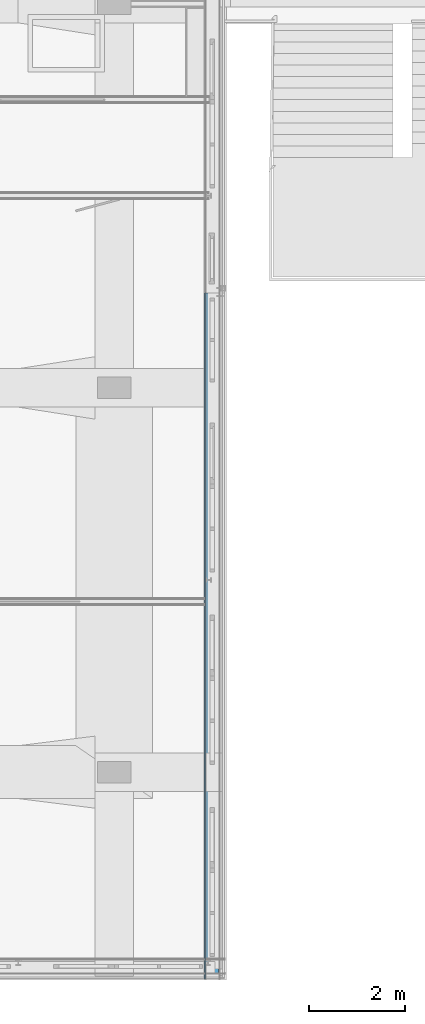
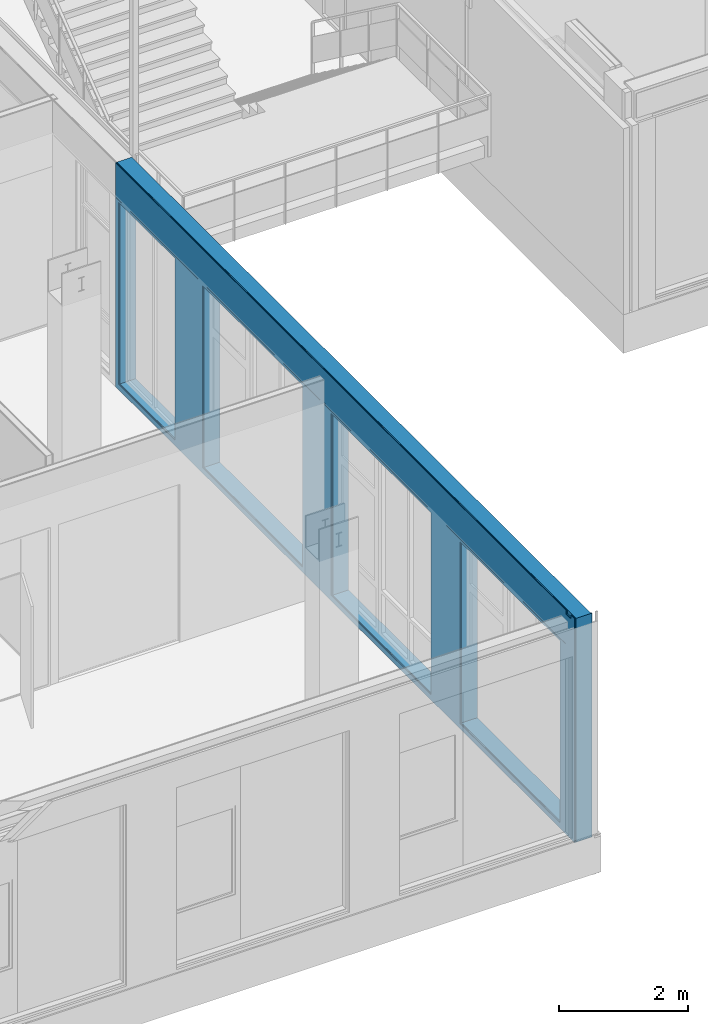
# One storey, part 38 of 94: 3 building element parts, 7 openings, 1 element without a shape of its own.
"""IFC2X3 building model written with IfcOpenShell, lengths in millimetres."""

from ifc_helpers import new_model, entity, si_unit, converted_unit, derived_unit, money_unit, direction, frame, origin_with_axes, place, context, subcontext, project, spatial, faceted_brep, material, type_object, element, aggregate, save


model = new_model("IFC2X3")

# Units and contexts
model_context = context("Model", 3, precision=0.01, world=origin_with_axes(), true_north=direction((0.0, 1.0)))
body_context = subcontext(model_context, "Body", "Model", "MODEL_VIEW")
ifc_project = project(units=[si_unit("LENGTHUNIT", "METRE", prefix="MILLI"), si_unit("AREAUNIT", "SQUARE_METRE"), si_unit("VOLUMEUNIT", "CUBIC_METRE"), converted_unit("PLANEANGLEUNIT", "DEGREE", entity("IfcPlaneAngleMeasure", 0.0174532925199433), si_unit("PLANEANGLEUNIT", "RADIAN"), dimensions=[0, 0, 0, 0, 0, 0, 0]), money_unit("EUR"), converted_unit("TIMEUNIT", "Year", entity("IfcTimeMeasure", 31557600.0), si_unit("TIMEUNIT", "SECOND"), dimensions=[0, 0, 1, 0, 0, 0, 0]), si_unit("MASSUNIT", "GRAM", prefix="KILO"), si_unit("THERMODYNAMICTEMPERATUREUNIT", "DEGREE_CELSIUS"), si_unit("LUMINOUSINTENSITYUNIT", "LUMEN"), si_unit("ENERGYUNIT", "JOULE", prefix="MEGA"), derived_unit("THERMALCONDUCTANCEUNIT", [(si_unit("POWERUNIT", "WATT"), 1), (si_unit("LENGTHUNIT", "METRE"), -1), (si_unit("THERMODYNAMICTEMPERATUREUNIT", "KELVIN"), -1)]), derived_unit("SPECIFICHEATCAPACITYUNIT", [(si_unit("ENERGYUNIT", "JOULE"), 1), (si_unit("MASSUNIT", "GRAM", prefix="KILO"), -1), (si_unit("THERMODYNAMICTEMPERATUREUNIT", "KELVIN"), -1)]), derived_unit("MASSDENSITYUNIT", [(si_unit("MASSUNIT", "GRAM", prefix="KILO"), 1), (si_unit("VOLUMEUNIT", "CUBIC_METRE"), -1)])], contexts=[model_context])

# Site, building, storey
site_placement = place(None, origin_with_axes())
site = spatial("IfcSite", under=ifc_project, at=site_placement, Name="<site naam>", CompositionType="ELEMENT")
building_placement = place(site_placement, origin_with_axes())
building = spatial("IfcBuilding", under=site, at=building_placement, Name="<Naam gebouw>", CompositionType="ELEMENT")
storey_placement = place(building_placement, frame((0.0, 0.0, 4250.0), z_axis=(0.0, 0.0, 1.0), x_axis=(1.0, 0.0, 0.0)))
storey = spatial("IfcBuildingStorey", under=building, at=storey_placement, Name="01 1e verdieping", CompositionType="ELEMENT", Elevation=4250.0)

# Wall, openings, building element parts
wall_type = type_object("IfcWallType", Name="HSB_285 gevelbeplating 420", PredefinedType="NOTDEFINED")
wall_placement = place(storey_placement, frame((4298.044439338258, -12297.99999999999, 0.0), z_axis=(0.0, 0.0, 1.0), x_axis=(0.0, 1.0, 0.0)))
wall = element("IfcWall", 1, at=wall_placement, inside=storey, type_object=wall_type, Name="21_Binnenwand_HSB_285")
opening_1_placement = place(wall_placement, frame((1379.500065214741, 0.0, 102.9999634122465), z_axis=(0.0, 0.0, 1.0), x_axis=(1.0, 0.0, 0.0)))
element("IfcOpeningElement", 2, at=opening_1_placement, cuts=wall, Name="21_BU-A-12a_305", context=body_context, shape_type="Brep", body=[
    faceted_brep([(918.5000652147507, 213.0000000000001, 0.0), (918.5000652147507, 213.0000000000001, 3454.0), (918.5000652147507, -1.000000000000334, 3454.0), (918.5000652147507, -1.000000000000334, 0.0), (918.5000652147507, 420.9999999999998, 0.0), (918.5000652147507, 420.9999999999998, 3454.0), (-918.5000652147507, 213.0000000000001, 3454.0), (-918.5000652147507, -1.000000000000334, 3454.0), (-918.5000652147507, -1.000000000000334, 0.0), (-918.5000652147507, 213.0000000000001, 0.0), (-918.5000652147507, 420.9999999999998, 0.0), (-918.5000652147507, 420.9999999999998, 3454.0)], [[[0, 1, 2, 3]], [[1, 0, 4, 5]], [[1, 6, 7, 2]], [[7, 8, 3, 2]], [[9, 0, 3, 8]], [[0, 9, 10, 4]], [[5, 4, 10, 11]], [[6, 1, 5, 11]], [[6, 9, 8, 7]], [[9, 6, 11, 10]]]),
])
opening_2_placement = place(wall_placement, frame((2931.50007085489, 0.0, 102.9999634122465), z_axis=(0.0, 0.0, 1.0), x_axis=(1.0, 0.0, 0.0)))
element("IfcOpeningElement", 3, at=opening_2_placement, cuts=wall, Name="21_BU-A-12b_305", context=body_context, shape_type="Brep", body=[
    faceted_brep([(633.4999291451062, 213.0000000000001, 0.0), (633.4999291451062, 213.0000000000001, 3454.0), (633.4999291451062, -1.000000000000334, 3454.0), (633.4999291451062, -1.000000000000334, 0.0), (633.4999291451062, 420.9999999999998, 0.0), (633.4999291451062, 420.9999999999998, 3454.0), (-633.4999291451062, 213.0000000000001, 3454.0), (-633.4999291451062, -1.000000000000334, 3454.0), (-633.4999291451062, -1.000000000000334, 0.0), (-633.4999291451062, 213.0000000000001, 0.0), (-633.4999291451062, 420.9999999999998, 0.0), (-633.4999291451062, 420.9999999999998, 3454.0)], [[[0, 1, 2, 3]], [[1, 0, 4, 5]], [[1, 6, 7, 2]], [[7, 8, 3, 2]], [[9, 0, 3, 8]], [[0, 9, 10, 4]], [[5, 4, 10, 11]], [[6, 1, 5, 11]], [[6, 9, 8, 7]], [[9, 6, 11, 10]]]),
])
opening_3_placement = place(wall_placement, frame((5379.47903416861, 0.0, 102.9999634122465), z_axis=(0.0, 0.0, 1.0), x_axis=(1.0, 0.0, 0.0)))
element("IfcOpeningElement", 4, at=opening_3_placement, cuts=wall, Name="21_BU-A-12a_305", context=body_context, shape_type="Brep", body=[
    faceted_brep([(918.5000652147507, 213.0000000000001, 0.0), (918.5000652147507, 213.0000000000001, 3454.0), (918.5000652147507, -1.000000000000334, 3454.0), (918.5000652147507, -1.000000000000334, 0.0), (918.5000652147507, 420.9999999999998, 0.0), (918.5000652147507, 420.9999999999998, 3454.0), (-918.5000652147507, 213.0000000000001, 3454.0), (-918.5000652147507, -1.000000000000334, 3454.0), (-918.5000652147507, -1.000000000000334, 0.0), (-918.5000652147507, 213.0000000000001, 0.0), (-918.5000652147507, 420.9999999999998, 0.0), (-918.5000652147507, 420.9999999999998, 3454.0)], [[[0, 1, 2, 3]], [[1, 0, 4, 5]], [[1, 6, 7, 2]], [[7, 8, 3, 2]], [[9, 0, 3, 8]], [[0, 9, 10, 4]], [[5, 4, 10, 11]], [[6, 1, 5, 11]], [[6, 9, 8, 7]], [[9, 6, 11, 10]]]),
])
opening_4_placement = place(wall_placement, frame((6931.500070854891, 0.0, 102.9999634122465), z_axis=(0.0, 0.0, 1.0), x_axis=(1.0, 0.0, 0.0)))
element("IfcOpeningElement", 5, at=opening_4_placement, cuts=wall, Name="21_BU-A-12b_305", context=body_context, shape_type="Brep", body=[
    faceted_brep([(633.4999291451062, 213.0000000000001, 0.0), (633.4999291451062, 213.0000000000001, 3454.0), (633.4999291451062, -1.000000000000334, 3454.0), (633.4999291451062, -1.000000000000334, 0.0), (633.4999291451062, 420.9999999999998, 0.0), (633.4999291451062, 420.9999999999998, 3454.0), (-633.4999291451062, 213.0000000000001, 3454.0), (-633.4999291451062, -1.000000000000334, 3454.0), (-633.4999291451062, -1.000000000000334, 0.0), (-633.4999291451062, 213.0000000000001, 0.0), (-633.4999291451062, 420.9999999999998, 0.0), (-633.4999291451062, 420.9999999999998, 3454.0)], [[[0, 1, 2, 3]], [[1, 0, 4, 5]], [[1, 6, 7, 2]], [[7, 8, 3, 2]], [[9, 0, 3, 8]], [[0, 9, 10, 4]], [[5, 4, 10, 11]], [[6, 1, 5, 11]], [[6, 9, 8, 7]], [[9, 6, 11, 10]]]),
])
opening_5_placement = place(wall_placement, frame((10931.50007085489, 0.0, 102.9999634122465), z_axis=(0.0, 0.0, 1.0), x_axis=(1.0, 0.0, 0.0)))
element("IfcOpeningElement", 6, at=opening_5_placement, cuts=wall, Name="21_BU-A-12b_305", context=body_context, shape_type="Brep", body=[
    faceted_brep([(633.4999291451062, 212.9999999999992, 0.0), (633.4999291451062, 212.9999999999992, 3454.0), (633.4999291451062, -1.000000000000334, 3454.0), (633.4999291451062, -1.000000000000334, 0.0), (633.4999291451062, 420.9999999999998, 0.0), (633.4999291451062, 420.9999999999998, 3454.0), (-633.4999291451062, 212.9999999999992, 3454.0), (-633.4999291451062, -1.000000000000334, 3454.0), (-633.4999291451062, -1.000000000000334, 0.0), (-633.4999291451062, 212.9999999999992, 0.0), (-633.4999291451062, 420.9999999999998, 0.0), (-633.4999291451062, 420.9999999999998, 3454.0)], [[[0, 1, 2, 3]], [[1, 0, 4, 5]], [[1, 6, 7, 2]], [[7, 8, 3, 2]], [[9, 0, 3, 8]], [[0, 9, 10, 4]], [[5, 4, 10, 11]], [[6, 1, 5, 11]], [[6, 9, 8, 7]], [[9, 6, 11, 10]]]),
])
opening_6_placement = place(wall_placement, frame((13295.52252618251, 0.0, 102.9999634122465), z_axis=(0.0, 0.0, 1.0), x_axis=(1.0, 0.0, 0.0)))
element("IfcOpeningElement", 7, at=opening_6_placement, cuts=wall, Name="21_BU-A-14a_305", context=body_context, shape_type="Brep", body=[
    faceted_brep([(879.4969387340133, 212.9999999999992, 0.0), (879.4969387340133, 212.9999999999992, 3454.0), (879.4969387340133, -1.000000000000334, 3454.0), (879.4969387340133, -1.000000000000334, 0.0), (879.4969387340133, 420.9999999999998, 0.0), (879.4969387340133, 420.9999999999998, 3454.0), (-879.4969387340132, 212.9999999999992, 3454.0), (-879.4969387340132, -1.000000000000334, 3454.0), (-879.4969387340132, -1.000000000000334, 0.0), (-879.4969387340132, 212.9999999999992, 0.0), (-879.4969387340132, 420.9999999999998, 0.0), (-879.4969387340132, 420.9999999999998, 3454.0)], [[[0, 1, 2, 3]], [[1, 0, 4, 5]], [[1, 6, 7, 2]], [[7, 8, 3, 2]], [[9, 0, 3, 8]], [[0, 9, 10, 4]], [[5, 4, 10, 11]], [[6, 1, 5, 11]], [[6, 9, 8, 7]], [[9, 6, 11, 10]]]),
])
opening_7_placement = place(wall_placement, frame((9379.500065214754, 0.0, 102.9999634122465), z_axis=(0.0, 0.0, 1.0), x_axis=(1.0, 0.0, 0.0)))
element("IfcOpeningElement", 8, at=opening_7_placement, cuts=wall, Name="21_BU-A-12a_305", context=body_context, shape_type="Brep", body=[
    faceted_brep([(918.5000652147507, 212.9999999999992, 0.0), (918.5000652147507, 212.9999999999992, 3454.0), (918.5000652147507, -1.000000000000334, 3454.0), (918.5000652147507, -1.000000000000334, 0.0), (918.5000652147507, 420.9999999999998, 0.0), (918.5000652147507, 420.9999999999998, 3454.0), (-918.5000652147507, 212.9999999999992, 3454.0), (-918.5000652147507, -1.000000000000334, 3454.0), (-918.5000652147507, -1.000000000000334, 0.0), (-918.5000652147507, 212.9999999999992, 0.0), (-918.5000652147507, 420.9999999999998, 0.0), (-918.5000652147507, 420.9999999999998, 3454.0)], [[[0, 1, 2, 3]], [[1, 0, 4, 5]], [[1, 6, 7, 2]], [[7, 8, 3, 2]], [[9, 0, 3, 8]], [[0, 9, 10, 4]], [[5, 4, 10, 11]], [[6, 1, 5, 11]], [[6, 9, 8, 7]], [[9, 6, 11, 10]]]),
])
ifc_material_1 = material(Name="gipsplaat")
building_element_part_1_placement = place(wall_placement, origin_with_axes())
building_element_part_1 = element("IfcBuildingElementPart", 9, at=building_element_part_1_placement, material=ifc_material_1, Name="gipsplaat", context=body_context, shape_type="Brep", body=[
    faceted_brep([(260.9740966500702, 419.9999999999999, 4250.0), (260.9740966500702, 407.5000000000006, 4250.0), (14276.35758320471, 407.5000000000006, 4250.0), (14276.35758320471, 419.9999999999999, 4250.0), (260.9740966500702, 407.5000000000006, 4180.000043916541), (260.9740966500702, 419.9999999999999, 4180.000047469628), (115.9741704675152, 407.5000000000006, 4180.00457070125), (115.9741704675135, 407.5000000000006, 4250.0), (0.0, 407.5000000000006, 4250.0), (0.0, 407.4999999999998, 0.0), (417.968378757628, 407.4999999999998, 0.0), (417.968378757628, 407.4999999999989, 3.000000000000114), (7771.434730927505, 407.4999999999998, 3.000000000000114), (7771.434730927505, 407.4999999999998, 0.0), (7921.434765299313, 407.5000000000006, 0.0), (7921.434765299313, 407.5000000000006, 3.000000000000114), (14276.35758320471, 407.4999999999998, 3.000000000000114), (280.4698589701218, 407.5000000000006, 3801.499799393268), (280.4696918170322, 407.5000000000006, 3809.999956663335), (380.4705738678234, 407.5000000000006, 3809.999956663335), (380.4704067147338, 407.5000000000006, 3801.499799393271), (333.2701674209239, 407.5000000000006, 3801.499799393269), (333.2701674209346, 407.5000000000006, 3618.499636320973), (380.4704067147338, 407.5000000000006, 3618.499636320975), (380.4705738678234, 407.5000000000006, 3609.99927844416), (280.4696918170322, 407.5000000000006, 3609.99927844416), (280.4698589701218, 407.5000000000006, 3618.499636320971), (327.6700982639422, 407.5000000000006, 3618.49963632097), (327.6700982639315, 407.5000000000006, 3801.499799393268), (14276.35758320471, 419.9999999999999, 3.000000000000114), (14276.35758320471, 419.9999999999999, 3600.0), (14276.35758320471, 414.0000118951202, 3600.0), (14276.35758320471, 414.0000118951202, 3640.0), (14276.35758320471, 419.9999999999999, 3640.0), (7921.434779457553, 419.9999999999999, 3640.0), (7921.434779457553, 419.9999999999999, 3600.0), (7921.434765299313, 419.9999999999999, 3.000000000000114), (7921.434765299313, 419.9999999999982, 0.0), (7771.434730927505, 419.9999999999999, 0.0), (7771.434730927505, 419.9999999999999, 3.000000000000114), (417.968378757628, 419.9999999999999, 3.000000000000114), (417.968378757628, 419.9999999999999, 0.0), (0.0, 419.9999999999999, 0.0), (0.0, 419.9999999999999, 4250.0), (115.9741704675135, 419.9999999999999, 4250.0), (115.9741704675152, 419.9999999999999, 4180.00457070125), (413.9999999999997, 419.9999999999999, 3640.0), (413.9999999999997, 419.9999999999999, 3600.0), (7771.434779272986, 419.9999999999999, 3600.0), (7771.434779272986, 419.9999999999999, 3640.0), (333.2701674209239, 419.9999999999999, 3801.499799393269), (380.4704067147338, 419.9999999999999, 3801.499799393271), (380.4705738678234, 419.9999999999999, 3809.999956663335), (280.4696918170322, 419.9999999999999, 3809.999956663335), (280.4698589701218, 419.9999999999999, 3801.499799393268), (327.6700982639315, 419.9999999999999, 3801.499799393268), (327.6700982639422, 419.9999999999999, 3618.49963632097), (280.4698589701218, 419.9999999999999, 3618.499636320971), (280.4696918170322, 419.9999999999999, 3609.99927844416), (380.4705738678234, 419.9999999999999, 3609.99927844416), (380.4704067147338, 419.9999999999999, 3618.499636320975), (333.2701674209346, 419.9999999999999, 3618.499636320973), (7921.434779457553, 414.0000118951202, 3600.0), (7921.434779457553, 414.0000118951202, 3640.0), (413.9999999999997, 414.9137316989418, 3600.0), (413.9999999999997, 414.9137316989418, 3640.0), (7771.434779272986, 414.9137316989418, 3600.0), (7771.434779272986, 414.9137316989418, 3640.0)], [[[0, 1, 2, 3]], [[4, 1, 0, 5]], [[6, 7, 8, 9, 10, 11, 12, 13, 14, 15, 16, 2, 1, 4], [17, 18, 19, 20, 21, 22, 23, 24, 25, 26, 27, 28]], [[2, 16, 29, 30, 31, 32, 33, 3]], [[5, 0, 3, 33, 34, 35, 30, 29, 36, 37, 38, 39, 40, 41, 42, 43, 44, 45], [46, 47, 48, 49], [50, 51, 52, 53, 54, 55, 56, 57, 58, 59, 60, 61]], [[6, 4, 5, 45]], [[44, 7, 6, 45]], [[7, 44, 43, 8]], [[8, 43, 42, 9]], [[42, 41, 10, 9]], [[40, 11, 10, 41]], [[39, 12, 11, 40]], [[38, 13, 12, 39]], [[38, 37, 14, 13]], [[36, 15, 14, 37]], [[36, 29, 16, 15]], [[18, 17, 54, 53]], [[19, 18, 53, 52]], [[20, 19, 52, 51]], [[21, 20, 51, 50]], [[22, 21, 50, 61]], [[23, 22, 61, 60]], [[24, 23, 60, 59]], [[25, 24, 59, 58]], [[26, 25, 58, 57]], [[27, 26, 57, 56]], [[28, 27, 56, 55]], [[17, 28, 55, 54]], [[62, 31, 30, 35]], [[63, 32, 31, 62]], [[34, 33, 32, 63]], [[62, 35, 34, 63]], [[64, 47, 46, 65]], [[66, 48, 47, 64]], [[67, 49, 48, 66]], [[65, 46, 49, 67]], [[66, 64, 65, 67]]]),
])
ifc_material_2 = material(Name="hout_OSB")
building_element_part_2_placement = place(wall_placement, origin_with_axes())
building_element_part_2 = element("IfcBuildingElementPart", 10, at=building_element_part_2_placement, material=ifc_material_2, Name="hout_OSB", context=body_context, shape_type="Brep", body=[
    faceted_brep([(369.5000008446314, 397.9999714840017, 3609.99927844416), (377.5000033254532, 397.9999714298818, 3609.99927844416), (377.5000033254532, 392.5000000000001, 3609.99927844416), (380.4705738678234, 392.5000000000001, 3609.99927844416), (380.4705738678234, 407.5000000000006, 3609.99927844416), (280.4696918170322, 407.5000000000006, 3609.99927844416), (280.4696918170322, 392.5000000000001, 3609.99927844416), (281.500002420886, 392.5000000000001, 3609.99927844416), (281.500002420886, 397.9999714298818, 3609.99927844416), (289.5000049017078, 397.9999714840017, 3609.99927844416), (289.5000049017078, 392.5000000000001, 3609.99927844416), (369.5000008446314, 392.5000000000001, 3609.99927844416), (369.5000008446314, 397.9999714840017, 0.0), (377.5000033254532, 397.9999714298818, 0.0), (377.5000033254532, 392.5000000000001, 0.0), (369.5000008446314, 392.5000000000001, 3618.499636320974), (369.5000008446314, 392.5000000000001, 3789.999753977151), (377.5000033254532, 392.5000000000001, 3789.999753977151), (377.5000033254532, 392.5000000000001, 3618.499636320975), (380.4704067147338, 392.5000000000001, 3618.499636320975), (417.968378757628, 392.5000000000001, 0.0), (417.968378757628, 392.5000000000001, 3.000000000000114), (7771.434730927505, 392.5000000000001, 3.000000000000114), (7771.434730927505, 392.5000000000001, 0.0), (7921.434765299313, 392.5000000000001, 0.0), (7921.434765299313, 392.5000000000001, 3.000000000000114), (14276.35758320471, 392.5000000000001, 3.000000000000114), (14276.35758320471, 392.5000000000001, 4250.0), (260.9740966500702, 392.5000000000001, 4250.0), (260.9740966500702, 392.5000000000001, 4180.000039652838), (115.9741704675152, 392.5000000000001, 4180.00457070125), (115.9741704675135, 392.5000000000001, 4250.0), (0.0, 392.5000000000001, 4250.0), (0.0, 392.5000000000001, 0.0), (281.500002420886, 392.5000000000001, 0.0), (280.4698589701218, 392.5000000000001, 3618.499636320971), (281.500002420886, 392.5000000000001, 3618.499636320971), (281.500002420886, 392.5000000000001, 3789.999753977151), (289.5000049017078, 392.5000000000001, 3789.999753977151), (289.5000049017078, 392.5000000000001, 3618.499636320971), (327.6700982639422, 392.5000000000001, 3618.49963632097), (327.6700982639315, 392.5000000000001, 3801.499799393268), (280.4698589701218, 392.5000000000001, 3801.499799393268), (280.4696918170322, 392.5000000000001, 3809.999956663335), (380.4705738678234, 392.5000000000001, 3809.999956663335), (380.4704067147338, 392.5000000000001, 3801.499799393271), (333.2701674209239, 392.5000000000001, 3801.499799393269), (333.2701674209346, 392.5000000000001, 3618.499636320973), (380.4704067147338, 407.5000000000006, 3618.499636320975), (115.9741704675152, 407.5000000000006, 4180.00457070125), (260.9740966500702, 407.5000000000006, 4180.000043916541), (260.9740966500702, 407.5000000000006, 4250.0), (14276.35758320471, 407.5000000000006, 4250.0), (14276.35758320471, 407.4999999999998, 3.000000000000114), (7921.434765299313, 407.5000000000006, 3.000000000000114), (7921.434765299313, 407.5000000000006, 0.0), (7771.434730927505, 407.4999999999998, 0.0), (7771.434730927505, 407.5000000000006, 3.000000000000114), (417.968378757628, 407.5000000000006, 3.000000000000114), (417.968378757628, 407.4999999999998, 0.0), (0.0, 407.4999999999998, 0.0), (0.0, 407.5000000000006, 4250.0), (115.9741704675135, 407.5000000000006, 4250.0), (333.2701674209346, 407.5000000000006, 3618.499636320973), (333.2701674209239, 407.5000000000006, 3801.499799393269), (380.4704067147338, 407.5000000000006, 3801.499799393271), (380.4705738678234, 407.5000000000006, 3809.999956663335), (280.4696918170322, 407.5000000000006, 3809.999956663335), (280.4698589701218, 407.5000000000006, 3801.499799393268), (327.6700982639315, 407.5000000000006, 3801.499799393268), (327.6700982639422, 407.5000000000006, 3618.49963632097), (280.4698589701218, 407.5000000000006, 3618.499636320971), (281.500002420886, 397.9999714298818, 0.0), (289.5000049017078, 397.9999714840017, 0.0), (289.5000049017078, 392.5000000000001, 0.0), (369.5000008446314, 392.5000000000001, 0.0), (369.5000008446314, 397.9999714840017, 3618.499636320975), (369.5000008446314, 397.9999714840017, 3789.999753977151), (377.5000033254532, 397.9999714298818, 3789.999753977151), (377.5000033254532, 397.9999714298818, 3618.499636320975), (281.500002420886, 397.9999714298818, 3618.49963632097), (289.5000049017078, 397.9999714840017, 3618.49963632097), (281.500002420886, 397.9999714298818, 3789.999753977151), (289.5000049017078, 397.9999714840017, 3789.999753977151)], [[[0, 1, 2, 3, 4, 5, 6, 7, 8, 9, 10, 11]], [[1, 0, 12, 13]], [[14, 2, 1, 13]], [[15, 16, 17, 18, 19, 3, 2, 14, 20, 21, 22, 23, 24, 25, 26, 27, 28, 29, 30, 31, 32, 33, 34, 7, 6, 35, 36, 37, 38, 39, 40, 41, 42, 43, 44, 45, 46, 47]], [[4, 3, 19, 48]], [[49, 50, 51, 52, 53, 54, 55, 56, 57, 58, 59, 60, 61, 62], [63, 64, 65, 66, 67, 68, 69, 70, 71, 5, 4, 48]], [[71, 35, 6, 5]], [[8, 7, 34, 72]], [[9, 8, 72, 73]], [[74, 10, 9, 73]], [[75, 11, 10, 74]], [[0, 11, 75, 12]], [[12, 75, 74, 73, 72, 34, 33, 60, 59, 20, 14, 13]], [[16, 15, 76, 77]], [[17, 16, 77, 78]], [[18, 17, 78, 79]], [[76, 15, 47, 63, 48, 19, 18, 79]], [[59, 58, 21, 20]], [[58, 57, 22, 21]], [[57, 56, 23, 22]], [[23, 56, 55, 24]], [[55, 54, 25, 24]], [[25, 54, 53, 26]], [[52, 27, 26, 53]], [[52, 51, 28, 27]], [[50, 29, 28, 51]], [[49, 30, 29, 50]], [[49, 62, 31, 30]], [[32, 31, 62, 61]], [[33, 32, 61, 60]], [[80, 36, 35, 71, 70, 40, 39, 81]], [[37, 36, 80, 82]], [[38, 37, 82, 83]], [[39, 38, 83, 81]], [[69, 41, 40, 70]], [[68, 42, 41, 69]], [[67, 43, 42, 68]], [[66, 44, 43, 67]], [[65, 45, 44, 66]], [[64, 46, 45, 65]], [[63, 47, 46, 64]], [[76, 79, 78, 77]], [[80, 81, 83, 82]]]),
])
ifc_material_3 = material(Name="isolatie_houtvezel")
building_element_part_3_placement = place(wall_placement, origin_with_axes())
building_element_part_3 = element("IfcBuildingElementPart", 11, at=building_element_part_3_placement, material=ifc_material_3, Name="isolatie_houtvezel", context=body_context, shape_type="Brep", body=[
    faceted_brep([(14276.35758320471, 122.99997833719, 4250.0), (14276.35758320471, 122.99997833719, 4220.000027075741), (14276.35758320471, 107.0000000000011, 4220.000027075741), (14276.35758320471, 107.0000000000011, 0.0), (14276.35758320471, 327.9999864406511, 0.0), (14276.35758320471, 327.9999864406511, 3.000000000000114), (14276.35758320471, 391.9999999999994, 3.000000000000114), (14276.35758320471, 392.0000000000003, 4250.0), (23.00991190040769, 122.99997833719, 4250.0), (23.00991190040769, 122.99997833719, 4220.000027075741), (23.00991190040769, 107.0000000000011, 4220.000027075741), (23.00991190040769, 107.0000000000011, 4250.0), (0.0, 107.0000000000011, 4250.0), (0.0, 107.0000000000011, 0.0), (369.5000008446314, 297.9999711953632, 0.0), (377.5000033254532, 297.9999712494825, 0.0), (377.5000033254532, 391.9999999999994, 0.0), (417.968378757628, 391.9999999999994, 0.0), (417.968378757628, 327.9998465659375, 0.0), (7771.434730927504, 327.9998465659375, 0.0), (7771.434730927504, 391.9999999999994, 0.0), (7921.434765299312, 391.9999999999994, 0.0), (7921.434765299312, 327.9999864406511, 0.0), (8295.499999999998, 327.9999864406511, 0.0), (8295.499999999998, 290.5444418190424, 0.0), (8247.999999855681, 290.5444418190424, 0.0), (8247.9999999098, 282.5444393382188, 0.0), (8348.000000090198, 282.5444393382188, 0.0), (8348.000000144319, 290.5444418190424, 0.0), (8300.5, 290.5444418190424, 0.0), (8300.5, 327.9999864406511, 0.0), (0.0, 391.9999999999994, 0.0), (281.500002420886, 391.9999999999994, 0.0), (281.500002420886, 297.9999712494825, 0.0), (289.5000049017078, 297.9999711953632, 0.0), (289.5000049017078, 345.4999713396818, 0.0), (369.5000008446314, 345.4999713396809, 0.0), (8300.500000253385, 327.9999864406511, 3.000000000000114), (8247.999999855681, 370.5444377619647, 3.000000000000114), (8295.5, 370.5444377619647, 3.000000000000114), (8295.499999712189, 327.9999864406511, 3.000000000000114), (7921.434765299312, 327.9999864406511, 3.000000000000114), (7921.434765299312, 392.0000000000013, 3.000000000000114), (8300.5, 370.5444377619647, 3.000000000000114), (8348.000000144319, 370.5444377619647, 3.000000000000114), (8348.000000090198, 378.5444402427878, 3.000000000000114), (8247.9999999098, 378.5444402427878, 3.000000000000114), (377.5000033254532, 391.9999999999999, 3789.999753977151), (369.5000008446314, 391.9999999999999, 3789.999753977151), (369.5000008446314, 392.0000000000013, 3618.499636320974), (333.2701674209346, 392.0000000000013, 3618.499636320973), (333.2701674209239, 392.0000000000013, 3801.499799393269), (380.4704067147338, 392.0000000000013, 3801.499799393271), (380.4705738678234, 392.0000000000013, 3809.999956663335), (280.4696918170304, 392.0000000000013, 3809.999956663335), (280.46985897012, 392.0000000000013, 3801.499799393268), (327.6700982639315, 392.0000000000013, 3801.499799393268), (327.6700982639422, 392.0000000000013, 3618.49963632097), (289.5000049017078, 392.0000000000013, 3618.499636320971), (289.5000049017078, 391.9999999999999, 3789.999753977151), (281.500002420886, 391.9999999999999, 3789.999753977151), (281.500002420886, 392.0000000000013, 3618.499636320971), (280.46985897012, 392.0000000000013, 3618.499636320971), (280.4696918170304, 392.0000000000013, 3609.99927844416), (281.500002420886, 392.0000000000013, 3609.99927844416), (0.0, 392.0000000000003, 4250.0), (7771.434730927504, 392.0000000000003, 3.000000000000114), (417.968378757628, 391.9999999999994, 3.000000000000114), (377.5000033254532, 392.0000000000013, 3609.99927844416), (380.4705738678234, 392.0000000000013, 3609.99927844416), (380.4704067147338, 392.0000000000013, 3618.499636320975), (377.5000033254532, 392.0000000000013, 3618.499636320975), (369.5000008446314, 297.9999711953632, 3609.99927844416), (377.5000033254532, 297.9999712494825, 3609.99927844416), (417.968378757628, 327.9998465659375, 3.000000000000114), (7771.434730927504, 327.9998465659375, 3.000000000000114), (8295.499999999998, 290.5444418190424, 3789.999753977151), (8295.5, 370.5444377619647, 3789.999753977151), (8247.999999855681, 290.5444418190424, 3789.999753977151), (8247.9999999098, 282.5444393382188, 3789.999753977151), (8348.000000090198, 282.5444393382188, 3789.999753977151), (8348.000000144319, 290.5444418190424, 3789.999753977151), (8300.5, 290.5444418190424, 3789.999753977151), (8300.5, 370.5444377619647, 3789.999753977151), (281.500002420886, 297.9999712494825, 3609.99927844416), (289.5000049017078, 297.9999711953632, 3609.99927844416), (289.5000049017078, 345.4999713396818, 3609.99927844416), (369.5000008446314, 345.4999713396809, 3609.99927844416), (8247.999999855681, 370.5444377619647, 3789.999753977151), (8348.000000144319, 370.5444377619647, 3789.999753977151), (8348.000000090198, 378.5444402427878, 3789.999753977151), (8247.9999999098, 378.5444402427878, 3789.999753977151), (369.5000008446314, 345.4999713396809, 3789.999753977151), (333.2701674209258, 345.4999713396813, 3789.999753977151), (333.2701674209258, 350.4999713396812, 3789.999753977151), (369.5000008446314, 350.4999713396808, 3789.999753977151), (377.5000033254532, 297.9999712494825, 3789.999753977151), (369.5000008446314, 297.9999711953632, 3789.999753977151), (369.5000008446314, 350.4999713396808, 3618.499636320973), (333.2701674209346, 350.4999715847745, 3618.499636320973), (333.2701674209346, 345.4999710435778, 3618.499636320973), (333.2701674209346, 153.0443550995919, 3618.499636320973), (333.2701674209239, 153.0443550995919, 3801.499799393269), (380.4704067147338, 153.0443550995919, 3801.499799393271), (380.4705738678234, 153.0443550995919, 3809.999956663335), (280.4696918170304, 153.0443550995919, 3809.999956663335), (280.46985897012, 153.0443550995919, 3801.499799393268), (327.6700982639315, 153.0443550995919, 3801.499799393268), (327.6700982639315, 345.4999713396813, 3789.999753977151), (327.6700982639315, 350.4999713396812, 3789.999753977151), (327.6700982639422, 350.4999716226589, 3618.49963632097), (327.6700982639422, 153.0443550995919, 3618.49963632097), (327.6700982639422, 345.4999710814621, 3618.49963632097), (289.5000049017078, 350.4999713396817, 3618.499636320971), (289.5000049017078, 350.4999713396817, 3789.999753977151), (289.5000049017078, 345.4999713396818, 3789.999753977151), (289.5000049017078, 297.9999711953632, 3789.999753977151), (281.500002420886, 297.9999712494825, 3789.999753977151), (281.500002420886, 297.9999712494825, 3618.499636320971), (289.5000049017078, 297.9999711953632, 3618.499636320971), (289.5000049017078, 345.4999713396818, 3618.499636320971), (280.46985897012, 153.0443550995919, 3618.499636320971), (280.4696918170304, 153.0443550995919, 3609.99927844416), (380.4705738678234, 153.0443550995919, 3609.99927844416), (380.4704067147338, 153.0443550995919, 3618.499636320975), (369.5000008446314, 345.4999713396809, 3618.499636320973), (369.5000008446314, 297.9999711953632, 3618.499636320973), (377.5000033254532, 297.9999712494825, 3618.499636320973)], [[[0, 1, 2, 3, 4, 5, 6, 7]], [[1, 0, 8, 9]], [[10, 2, 1, 9]], [[10, 11, 12, 13, 3, 2]], [[14, 15, 16, 17, 18, 19, 20, 21, 22, 23, 24, 25, 26, 27, 28, 29, 30, 4, 3, 13, 31, 32, 33, 34, 35, 36]], [[4, 30, 37, 5]], [[38, 39, 40, 41, 42, 6, 5, 37, 43, 44, 45, 46]], [[47, 48, 49, 50, 51, 52, 53, 54, 55, 56, 57, 58, 59, 60, 61, 62, 63, 64, 32, 31, 65, 7, 6, 42, 21, 20, 66, 67, 17, 16, 68, 69, 70, 71]], [[8, 0, 7, 65, 12, 11]], [[8, 11, 10, 9]], [[31, 13, 12, 65]], [[14, 72, 73, 15]], [[15, 73, 68, 16]], [[17, 67, 74, 18]], [[18, 74, 75, 19]], [[19, 75, 66, 20]], [[21, 42, 41, 22]], [[41, 40, 23, 22]], [[76, 24, 23, 40, 39, 77]], [[78, 25, 24, 76]], [[79, 26, 25, 78]], [[80, 27, 26, 79]], [[81, 28, 27, 80]], [[82, 29, 28, 81]], [[37, 30, 29, 82, 83, 43]], [[32, 64, 84, 33]], [[33, 84, 85, 34]], [[34, 85, 86, 35]], [[35, 86, 87, 36]], [[36, 87, 72, 14]], [[77, 39, 38, 88]], [[89, 44, 43, 83]], [[90, 45, 44, 89]], [[91, 46, 45, 90]], [[88, 38, 46, 91]], [[92, 93, 94, 95, 48, 47, 96, 97]], [[95, 98, 49, 48]], [[49, 98, 99, 50]], [[94, 93, 100, 101, 102, 51, 50, 99]], [[102, 103, 52, 51]], [[103, 104, 53, 52]], [[104, 105, 54, 53]], [[105, 106, 55, 54]], [[106, 107, 56, 55]], [[108, 109, 110, 57, 56, 107, 111, 112]], [[110, 113, 58, 57]], [[59, 58, 113, 114]], [[114, 109, 108, 115, 116, 117, 60, 59]], [[117, 118, 61, 60]], [[62, 61, 118, 119, 120, 112, 111, 121]], [[121, 122, 63, 62]], [[85, 84, 64, 63, 122, 123, 69, 68, 73, 72, 87, 86]], [[66, 75, 74, 67]], [[123, 124, 70, 69]], [[100, 125, 126, 127, 71, 70, 124, 101]], [[47, 71, 127, 96]], [[91, 90, 89, 83, 82, 81, 80, 79, 78, 76, 77, 88]], [[92, 125, 100, 93]], [[94, 99, 98, 95]], [[96, 127, 126, 97]], [[97, 126, 125, 92]], [[106, 105, 104, 103, 102, 101, 124, 123, 122, 121, 111, 107]], [[113, 110, 109, 114]], [[115, 108, 112, 120]], [[115, 120, 119, 116]], [[116, 119, 118, 117]]]),
    faceted_brep([(289.5000049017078, 392.0000000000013, 3609.99927844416), (289.5000049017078, 350.4999713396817, 3609.99927844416), (369.5000008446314, 350.4999713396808, 3609.99927844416), (369.5000008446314, 392.0000000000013, 3609.99927844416), (289.5000049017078, 391.9999999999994, 0.0), (289.5000049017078, 350.4999713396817, 0.0), (369.5000008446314, 350.4999713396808, 0.0), (369.5000008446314, 391.9999999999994, 0.0)], [[[0, 1, 2, 3]], [[1, 0, 4, 5]], [[2, 1, 5, 6]], [[3, 2, 6, 7]], [[4, 0, 3, 7]], [[5, 4, 7, 6]]]),
])
aggregate(wall, [building_element_part_1, building_element_part_2, building_element_part_3])

save(model, "model.ifc")
